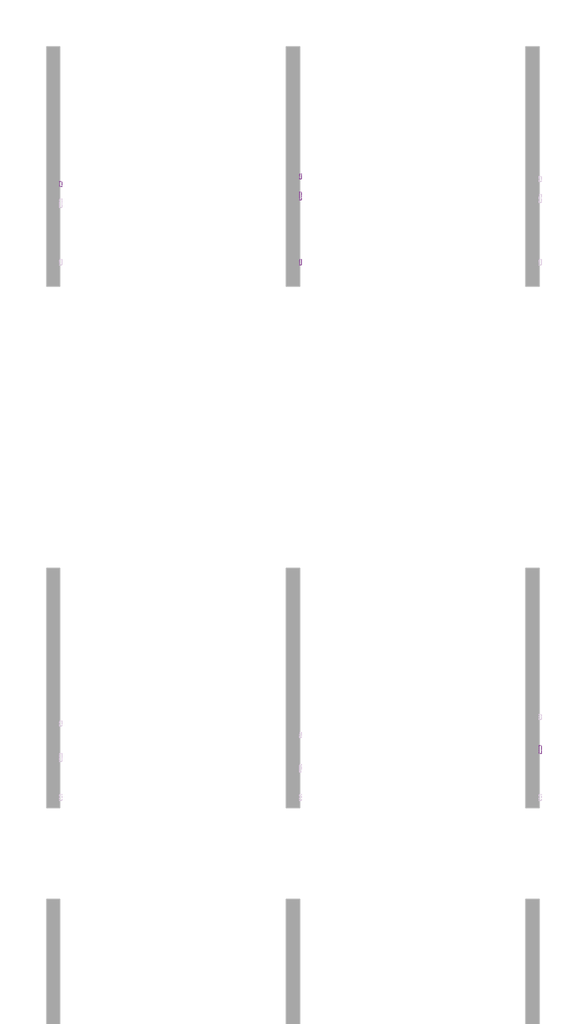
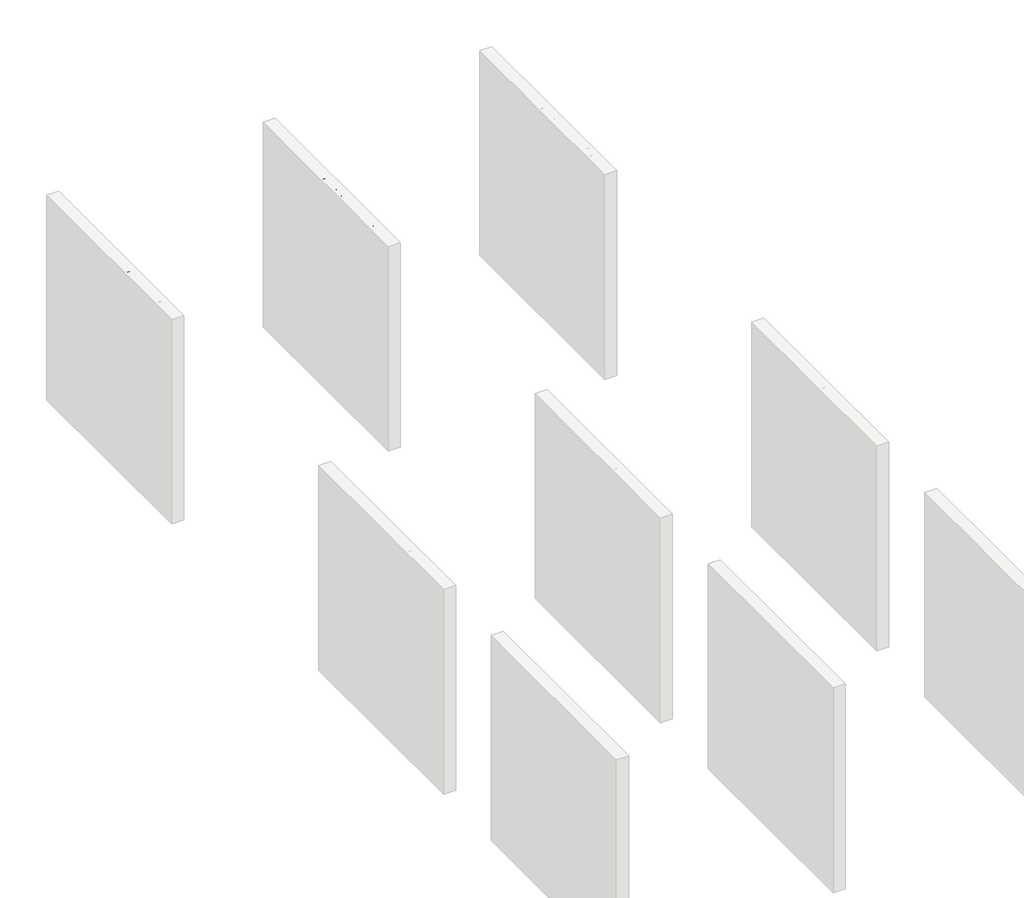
# One storey, part 10 of 17: 5 proxies.
"""IFC4 building model written with IfcOpenShell, lengths in millimetres."""

import ifcopenshell
import ifcopenshell.guid

model = None  # the IFC model being written
_history = None  # IfcOwnerHistory: only IFC2X3 demands one
_inside = {}  # id of a spatial element -> (the spatial element, [elements in it])
_under = {}  # id of a project, library or spatial element -> (it, [spatial elements below it])
_declared = {}  # id of a project -> (the project, [libraries it declares])
_typed = {}  # id of a type object -> (the type object, [elements of that type])
_made_of = {}  # id of a material, layer set ... -> (it, [elements and type objects made of it])


def new_model(schema):
    """Start an empty IFC model of exactly this schema.

    Asked for "IFC4X3", IfcOpenShell would pick the latest addendum, in which some entities
    have other attributes; the version numbers below select the first issue.
    IFC2X3 requires an IfcOwnerHistory on every rooted entity: one is made here for all.
    """
    global model, _history
    if schema == "IFC4X3":
        model = ifcopenshell.file(schema_version=(4, 3, 0, 0))
    else:
        model = ifcopenshell.file(schema=schema)
    _inside.clear()
    _under.clear()
    _declared.clear()
    _typed.clear()
    _made_of.clear()
    _history = None
    if model.schema == "IFC2X3":
        org = make("IfcOrganization", Name="unknown")
        user = make(
            "IfcPersonAndOrganization",
            ThePerson=make("IfcPerson", FamilyName="unknown"),
            TheOrganization=org,
        )
        app = make(
            "IfcApplication",
            ApplicationDeveloper=org,
            Version="unknown",
            ApplicationFullName="unknown",
            ApplicationIdentifier="unknown",
        )
        _history = make(
            "IfcOwnerHistory",
            OwningUser=user,
            OwningApplication=app,
            ChangeAction="ADDED",
            CreationDate=0,
        )
    return model


def make(cls, **values):
    """One entity of the class cls with the attributes given. An attribute that is None is left unset."""
    return model.create_entity(
        cls, **{name: value for name, value in values.items() if value is not None}
    )


def rooted(cls, **values):
    """An entity with a GlobalId (a new one), such as an element, a storey or a relation."""
    return make(cls, GlobalId=ifcopenshell.guid.new(), OwnerHistory=_history, **values)


def si_unit(unit_type, name, prefix=None):
    """IfcSIUnit, for example si_unit("LENGTHUNIT", "METRE", prefix="MILLI")."""
    return make("IfcSIUnit", UnitType=unit_type, Prefix=prefix, Name=name)


def assignment(units):
    """IfcUnitAssignment: the units of a project."""
    return None if units is None else make("IfcUnitAssignment", Units=units)


def point(xyz):
    """IfcCartesianPoint."""
    return None if xyz is None else make("IfcCartesianPoint", Coordinates=xyz)


def direction(xyz):
    """IfcDirection."""
    return None if xyz is None else make("IfcDirection", DirectionRatios=xyz)


def frame(location, z_axis=None, x_axis=None):
    """IfcAxis2Placement3D, a coordinate frame: its origin and axes. An axis left out is left unset."""
    return make(
        "IfcAxis2Placement3D",
        Location=point(location),
        Axis=direction(z_axis),
        RefDirection=direction(x_axis),
    )


def origin():
    """The frame at (0, 0, 0) with its axes left unset."""
    return frame((0.0, 0.0, 0.0))


def place(relative_to, where):
    """IfcLocalPlacement: puts the frame where relative to a parent placement (None: the world)."""
    return make(
        "IfcLocalPlacement", PlacementRelTo=relative_to, RelativePlacement=where
    )


def context(
    kind, dimensions, precision=None, world=None, true_north=None, identifier=None
):
    """IfcGeometricRepresentationContext, for example the 3D "Model" context."""
    return make(
        "IfcGeometricRepresentationContext",
        ContextIdentifier=identifier,
        ContextType=kind,
        CoordinateSpaceDimension=dimensions,
        Precision=precision,
        WorldCoordinateSystem=world,
        TrueNorth=true_north,
    )


def project(units=None, contexts=None):
    """IfcProject with its units and contexts."""
    return rooted(
        "IfcProject",
        Name="project",
        RepresentationContexts=contexts,
        UnitsInContext=assignment(units),
    )


def spatial(cls, under=None, at=None, **own):
    """A site, building, storey or space (cls), placed at a placement, below another one or the project."""
    s = rooted(cls, ObjectPlacement=at, **own)
    if under is not None:
        _under.setdefault(under.id(), (under, []))[1].append(s)
    return s


def polyline(points):
    """IfcPolyline through the points."""
    return make("IfcPolyline", Points=[point(p) for p in points])


def outline(outer, holes=None, kind="AREA"):
    """IfcArbitraryClosedProfileDef: a profile drawn as a closed curve; with holes, ...WithVoids."""
    if holes is None:
        return make("IfcArbitraryClosedProfileDef", ProfileType=kind, OuterCurve=outer)
    return make(
        "IfcArbitraryProfileDefWithVoids",
        ProfileType=kind,
        OuterCurve=outer,
        InnerCurves=holes,
    )


def extrude(swept, where, along, depth):
    """IfcExtrudedAreaSolid: the profile swept, set in the frame where, extruded along a direction by depth."""
    return make(
        "IfcExtrudedAreaSolid",
        SweptArea=swept,
        Position=where,
        ExtrudedDirection=direction(along),
        Depth=depth,
    )


def shape(context_of_items, identifier, shape_type, items):
    """IfcShapeRepresentation: the items that make up one representation, for example the "Body"."""
    return make(
        "IfcShapeRepresentation",
        ContextOfItems=context_of_items,
        RepresentationIdentifier=identifier,
        RepresentationType=shape_type,
        Items=items,
    )


def made_of(thing, what):
    """Note that an element or type object is made of a material, layer set ...; save() writes the relation."""
    if what is not None:
        _made_of.setdefault(what.id(), (what, []))[1].append(thing)
    return thing


def element(
    cls,
    number,
    at=None,
    inside=None,
    cuts=None,
    type_object=None,
    material=None,
    context=None,
    identifier="Body",
    shape_type=None,
    held_by="IfcProductDefinitionShape",
    body=None,
    shapes=None,
    **own,
):
    """One element of the class cls, such as IfcWall. Its Tag is "e" and its number.

    at: its placement. inside: the storey or other place that contains it. cuts: it is an
    opening in that element (IfcRelVoidsElement). A single representation is given by context,
    identifier, shape_type and body (its items); several are given by shapes. held_by: the class
    of the entity that holds the representations. save() writes the other relations.
    """
    e = rooted(cls, Tag="e%d" % number, ObjectPlacement=at, **own)
    if body is not None:
        shapes = [shape(context, identifier, shape_type, body)]
    if shapes is not None:
        e.Representation = make(held_by, Representations=shapes)
    if inside is not None:
        _inside.setdefault(inside.id(), (inside, []))[1].append(e)
    if cuts is not None:
        rooted(
            "IfcRelVoidsElement", RelatingBuildingElement=cuts, RelatedOpeningElement=e
        )
    if type_object is not None:
        _typed.setdefault(type_object.id(), (type_object, []))[1].append(e)
    return made_of(e, material)


def aggregate(whole, parts):
    """IfcRelAggregates: a whole, such as a stair, and the parts it consists of."""
    return rooted("IfcRelAggregates", RelatingObject=whole, RelatedObjects=parts)


def save(model, path):
    """Write the relations noted so far, then the file.

    IfcRelAggregates (storeys below a building ...), IfcRelContainedInSpatialStructure (elements
    in a storey), IfcRelDefinesByType, IfcRelAssociatesMaterial and IfcRelDeclares: one each for
    every whole, place, type object, material and project.
    """
    for whole, parts in _under.values():
        aggregate(whole, parts)
    for where, things in _inside.values():
        rooted(
            "IfcRelContainedInSpatialStructure",
            RelatedElements=things,
            RelatingStructure=where,
        )
    for kind, things in _typed.values():
        rooted("IfcRelDefinesByType", RelatedObjects=things, RelatingType=kind)
    for what, things in _made_of.values():
        rooted("IfcRelAssociatesMaterial", RelatedObjects=things, RelatingMaterial=what)
    for by, libraries in _declared.values():
        rooted("IfcRelDeclares", RelatingContext=by, RelatedDefinitions=libraries)
    model.write(path)


model = new_model("IFC4")

# Units and contexts
model_context = context("Model", 3, world=origin())
ifc_project = project(units=[si_unit("LENGTHUNIT", "METRE", prefix="MILLI")], contexts=[model_context])

# Site, building, storey
site = spatial("IfcSite", under=ifc_project)
building = spatial("IfcBuilding", under=site)
storey = spatial("IfcBuildingStorey", under=building, Name="PORTOBELLO - SHOWROOM", Elevation=0.0)

# Proxies
placement = place(None, origin())
element("IfcBuildingElementProxy", 1, Name="10mm Arial", ObjectType="10mm Arial", at=placement, inside=storey, context=model_context, shape_type="SweptSolid", body=[
    extrude(outline(polyline([(5678.3988105, 2518.4745677), (5718.497948, 2618.9308778), (5729.1910513, 2618.9308778), (5769.2656633, 2518.4745677), (5755.997386, 2518.4745677), (5744.5194678, 2549.8671646), (5703.1204806, 2549.8671646), (5691.6425623, 2518.4745677), (5678.3988105, 2518.4745677)]), holes=[polyline([(5707.7312683, 2562.4242034), (5739.9332056, 2562.4242034), (5730.858783, 2587.121348), (5723.8199742, 2606.373839), (5717.5659803, 2589.279589), (5707.7312683, 2562.4242034)])]), frame((-10322.2794626, 0.0, 0.0), z_axis=(1.0, 0.0, 0.0), x_axis=(0.0, 1.0, 0.0)), (0.0, 0.0, 1.0), 20.0),
    extrude(outline(polyline([(-10302.2794626, 5793.6685023), (-10302.2794626, 5781.1114636), (-10322.2794626, 5781.1114636), (-10322.2794626, 5793.6685023), (-10302.2794626, 5793.6685023)])), frame((0.0, 0.0, 2518.4745677), z_axis=(0.0, 0.0, 1.0), x_axis=(1.0, 0.0, 0.0)), (0.0, 0.0, 1.0), 100.4563101),
    extrude(outline(polyline([(5812.5040605, 2518.4745677), (5812.5040605, 2592.2471704), (5825.0610992, 2592.2471704), (5825.0610992, 2580.1070646), (5833.6940634, 2590.0521412), (5845.981322, 2593.8168003), (5858.5628863, 2589.9785648), (5865.4790678, 2579.2241478), (5875.2769916, 2590.1686372), (5887.6500894, 2593.8168003), (5897.0893282, 2592.299287), (5904.0698891, 2587.7467474), (5908.3833055, 2580.0365539), (5909.8211109, 2569.0460793), (5909.8211109, 2518.4745677), (5897.2640722, 2518.4745677), (5897.2640722, 2563.6504767), (5896.0991125, 2574.1351135), (5891.8807323, 2579.2977242), (5884.7070334, 2581.2597615), (5872.3584611, 2576.2320409), (5868.6704441, 2569.6898728), (5867.4411051, 2560.1188095), (5867.4411051, 2518.4745677), (5854.8840663, 2518.4745677), (5854.8840663, 2565.0484283), (5851.9777986, 2577.2130596), (5842.4496549, 2581.2597615), (5833.1545031, 2578.5619602), (5826.9740856, 2570.66476), (5825.0610992, 2555.6797001), (5825.0610992, 2518.4745677), (5812.5040605, 2518.4745677)])), frame((-10322.2794626, 0.0, 0.0), z_axis=(1.0, 0.0, 0.0), x_axis=(0.0, 1.0, 0.0)), (0.0, 0.0, 1.0), 20.0),
    extrude(outline(polyline([(5925.5174094, 2555.360869), (5928.2336048, 2573.1479635), (5936.382191, 2585.64982), (5946.4498949, 2591.7750552), (5958.5041616, 2593.8168003), (5971.6957968, 2591.3305311), (5982.2325503, 2583.8717237), (5989.1395348, 2572.0289891), (5991.4418629, 2556.3909386), (5987.3706355, 2534.0482388), (5975.5125725, 2521.4053609), (5958.5041616, 2516.9049378), (5945.1531109, 2519.3820099), (5934.6286201, 2526.8132262), (5927.7952121, 2538.9042811), (5925.5174094, 2555.360869)]), holes=[polyline([(5938.0744482, 2555.3853945), (5939.527582, 2544.0209065), (5943.8869837, 2535.924437), (5950.4475459, 2531.0775917), (5958.5041616, 2529.4619766), (5966.5239891, 2531.0867887), (5973.0722886, 2535.9612252), (5977.4316903, 2544.1649937), (5978.8848242, 2555.777802), (5977.4224932, 2566.8111961), (5973.0355004, 2574.7973011), (5966.4780039, 2579.6441464), (5958.5041616, 2581.2597615), (5950.4475459, 2579.6502778), (5943.8869837, 2574.8218266), (5939.527582, 2566.7437511), (5938.0744482, 2555.3853945)])]), frame((-10322.2794626, 0.0, 0.0), z_axis=(1.0, 0.0, 0.0), x_axis=(0.0, 1.0, 0.0)), (0.0, 0.0, 1.0), 20.0),
    extrude(outline(polyline([(6005.5685315, 2518.4745677), (6005.5685315, 2592.2471704), (6018.1255703, 2592.2471704), (6018.1255703, 2581.9464746), (6027.7272904, 2590.8492188), (6040.8361522, 2593.8168003), (6052.6942151, 2591.4255673), (6060.787619, 2585.1470479), (6064.5522781, 2575.9132098), (6065.2144657, 2563.773104), (6065.2144657, 2518.4745677), (6052.6574269, 2518.4745677), (6052.6574269, 2562.0808468), (6051.2104244, 2573.1908831), (6046.0968647, 2579.0647323), (6037.4761633, 2581.2597615), (6023.8522667, 2576.3301428), (6019.5572444, 2569.1871007), (6018.1255703, 2557.6172119), (6018.1255703, 2518.4745677), (6005.5685315, 2518.4745677)])), frame((-10322.2794626, 0.0, 0.0), z_axis=(1.0, 0.0, 0.0), x_axis=(0.0, 1.0, 0.0)), (0.0, 0.0, 1.0), 20.0),
    extrude(outline(polyline([(6127.9996595, 2518.4745677), (6127.9996595, 2530.3203679), (6119.6916578, 2520.2587953), (6108.2076082, 2516.9049378), (6092.6584625, 2521.7609802), (6081.6710536, 2535.3113003), (6077.7715045, 2555.2872926), (6081.3644853, 2575.2755477), (6092.131165, 2589.0343343), (6108.1585573, 2593.8168003), (6119.7345774, 2590.3954977), (6127.9996595, 2581.5050162), (6127.9996595, 2618.9308778), (6140.5566983, 2618.9308778), (6140.5566983, 2518.4745677), (6127.9996595, 2518.4745677)]), holes=[polyline([(6090.3285432, 2555.3363436), (6091.7448889, 2543.977987), (6095.993926, 2535.8999115), (6102.1682121, 2531.0714603), (6109.3603051, 2529.4619766), (6116.5493324, 2530.9978839), (6122.5672687, 2535.6056059), (6126.6415618, 2543.3709817), (6127.9996595, 2554.3798504), (6126.6170364, 2566.415723), (6122.4691669, 2574.7605129), (6116.2979464, 2579.6349494), (6108.8452703, 2581.2597615), (6101.5796009, 2579.6993287), (6095.626044, 2575.0180303), (6091.6529184, 2566.976743), (6090.3285432, 2555.3363436)])]), frame((-10322.2794626, 0.0, 0.0), z_axis=(1.0, 0.0, 0.0), x_axis=(0.0, 1.0, 0.0)), (0.0, 0.0, 1.0), 20.0),
    extrude(outline(polyline([(6195.4937429, 2553.0064243), (6208.0507817, 2553.0064243), (6212.0974836, 2540.4371228), (6221.9812466, 2532.4908717), (6237.0398829, 2529.4619766), (6250.1610074, 2531.7551077), (6258.634556, 2538.0581525), (6261.4181965, 2546.4826502), (6259.3335318, 2554.3185367), (6250.7986695, 2560.0207077), (6232.5149344, 2564.8154363), (6212.8332476, 2571.0081166), (6202.152407, 2580.3523193), (6198.6330026, 2592.8357816), (6202.9862729, 2607.0482894), (6215.7027272, 2617.0792051), (6234.3175561, 2620.5005077), (6254.1831839, 2616.9197896), (6267.4269357, 2606.3983645), (6272.4056054, 2590.6775406), (6259.8485666, 2590.6775406), (6257.5431728, 2598.1700706), (6252.7361814, 2603.5779359), (6234.8080655, 2607.9434689), (6216.8308986, 2603.6269868), (6211.1900414, 2593.2036636), (6215.1876924, 2584.4971231), (6235.6909823, 2577.4828397), (6257.9110548, 2571.1797948), (6270.0634233, 2561.0017263), (6273.9752352, 2546.8014813), (6269.4748122, 2531.7796332), (6256.5253659, 2520.8167497), (6237.5303922, 2516.9049378), (6215.1018533, 2521.123318), (6200.913871, 2533.8275096), (6195.4937429, 2553.0064243)])), frame((-10322.2794626, 0.0, 0.0), z_axis=(1.0, 0.0, 0.0), x_axis=(0.0, 1.0, 0.0)), (0.0, 0.0, 1.0), 20.0),
    extrude(outline(polyline([(6338.3300589, 2518.4745677), (6338.3300589, 2531.1542338), (6328.4953469, 2520.4672618), (6315.668528, 2516.9049378), (6303.859516, 2519.4065354), (6295.7170611, 2525.6850548), (6291.9769275, 2534.9311556), (6291.2411635, 2546.6052776), (6291.2411635, 2592.2471704), (6303.7982023, 2592.2471704), (6303.7982023, 2552.515915), (6304.5584918, 2539.7136215), (6309.5248987, 2532.1965661), (6318.8813641, 2529.4619766), (6329.366001, 2532.2578797), (6336.2944452, 2539.873037), (6338.3300589, 2553.8648156), (6338.3300589, 2592.2471704), (6350.8870977, 2592.2471704), (6350.8870977, 2518.4745677), (6338.3300589, 2518.4745677)])), frame((-10322.2794626, 0.0, 0.0), z_axis=(1.0, 0.0, 0.0), x_axis=(0.0, 1.0, 0.0)), (0.0, 0.0, 1.0), 20.0),
    extrude(outline(polyline([(6368.153026, 2490.2212304), (6368.153026, 2592.2471704), (6380.7100648, 2592.2471704), (6380.7100648, 2579.9353863), (6389.3920798, 2590.3464468), (6401.1152528, 2593.8168003), (6417.0322804, 2588.9607579), (6427.4310781, 2575.2755477), (6430.9382198, 2555.9249548), (6426.977357, 2535.5810804), (6415.4749133, 2521.724192), (6399.5946738, 2516.9049378), (6388.6685786, 2520.1300366), (6380.7100648, 2528.2847542), (6380.7100648, 2490.2212304), (6368.153026, 2490.2212304)]), holes=[polyline([(6380.7100648, 2554.7722579), (6382.0681625, 2543.5150688), (6386.1424556, 2535.6423941), (6392.1542605, 2531.007081), (6399.3248937, 2529.4619766), (6406.6120229, 2531.0622633), (6412.777112, 2535.8631233), (6416.9801638, 2544.0239722), (6418.3811811, 2555.7042256), (6417.0138863, 2566.900101), (6412.9120021, 2574.8831403), (6406.9093942, 2579.6656062), (6399.8399285, 2581.2597615), (6392.7428717, 2579.5644386), (6386.5103376, 2574.4784701), (6382.160133, 2566.1612713), (6380.7100648, 2554.7722579)])]), frame((-10322.2794626, 0.0, 0.0), z_axis=(1.0, 0.0, 0.0), x_axis=(0.0, 1.0, 0.0)), (0.0, 0.0, 1.0), 20.0),
    extrude(outline(polyline([(6445.0648885, 2518.4745677), (6445.0648885, 2592.2471704), (6456.0522974, 2592.2471704), (6456.0522974, 2581.3333379), (6463.8513957, 2591.3887791), (6471.6995449, 2593.8168003), (6484.3056346, 2589.9417766), (6480.1117799, 2578.6845875), (6471.282612, 2581.2597615), (6464.1824895, 2578.7826894), (6459.6575409, 2571.9155588), (6457.6219272, 2557.24933), (6457.6219272, 2518.4745677), (6445.0648885, 2518.4745677)])), frame((-10322.2794626, 0.0, 0.0), z_axis=(1.0, 0.0, 0.0), x_axis=(0.0, 1.0, 0.0)), (0.0, 0.0, 1.0), 20.0),
    extrude(outline(polyline([(6543.804416, 2540.4493855), (6556.1162001, 2538.8797557), (6551.6801563, 2529.602998), (6544.6014936, 2522.6684224), (6535.0396274, 2518.345809), (6523.1539733, 2516.9049378), (6508.4202994, 2519.391207), (6497.0834026, 2526.8500144), (6489.8545214, 2538.7969822), (6487.4448943, 2554.7477324), (6489.8790468, 2571.2349771), (6497.1815044, 2583.5651553), (6508.3651171, 2591.253889), (6522.4427348, 2593.8168003), (6536.0819597, 2591.2600204), (6546.9804638, 2583.5896808), (6554.1265716, 2571.2840281), (6556.5086075, 2554.8213088), (6556.4350311, 2551.4367944), (6500.0019331, 2551.4367944), (6502.1755025, 2542.0374095), (6507.2246829, 2535.1273593), (6514.5118121, 2530.8783223), (6523.399228, 2529.4619766), (6535.7110121, 2532.0862015), (6543.804416, 2540.4493855)]), holes=[polyline([(6500.0019331, 2563.9938332), (6543.9515688, 2563.9938332), (6538.9238482, 2575.3736496), (6531.6029965, 2579.7882335), (6522.3936838, 2581.2597615), (6506.9303773, 2576.5631347), (6502.0651379, 2571.0724959), (6500.0019331, 2563.9938332)])]), frame((-10322.2794626, 0.0, 0.0), z_axis=(1.0, 0.0, 0.0), x_axis=(0.0, 1.0, 0.0)), (0.0, 0.0, 1.0), 20.0),
    extrude(outline(polyline([(6569.0656463, 2518.4745677), (6569.0656463, 2592.2471704), (6581.6226851, 2592.2471704), (6581.6226851, 2580.1070646), (6590.2556492, 2590.0521412), (6602.5429079, 2593.8168003), (6615.1244721, 2589.9785648), (6622.0406536, 2579.2241478), (6631.8385774, 2590.1686372), (6644.2116752, 2593.8168003), (6653.650914, 2592.299287), (6660.6314749, 2587.7467474), (6664.9448913, 2580.0365539), (6666.3826968, 2569.0460793), (6666.3826968, 2518.4745677), (6653.825658, 2518.4745677), (6653.825658, 2563.6504767), (6652.6606983, 2574.1351135), (6648.4423181, 2579.2977242), (6641.2686192, 2581.2597615), (6628.9200469, 2576.2320409), (6625.2320299, 2569.6898728), (6624.0026909, 2560.1188095), (6624.0026909, 2518.4745677), (6611.4456521, 2518.4745677), (6611.4456521, 2565.0484283), (6608.5393844, 2577.2130596), (6599.0112407, 2581.2597615), (6589.716089, 2578.5619602), (6583.5356714, 2570.66476), (6581.6226851, 2555.6797001), (6581.6226851, 2518.4745677), (6569.0656463, 2518.4745677)])), frame((-10322.2794626, 0.0, 0.0), z_axis=(1.0, 0.0, 0.0), x_axis=(0.0, 1.0, 0.0)), (0.0, 0.0, 1.0), 20.0),
    extrude(outline(polyline([(6736.868887, 2540.4493855), (6749.1806711, 2538.8797557), (6744.7446274, 2529.602998), (6737.6659647, 2522.6684224), (6728.1040985, 2518.345809), (6716.2184444, 2516.9049378), (6701.4847705, 2519.391207), (6690.1478736, 2526.8500144), (6682.9189924, 2538.7969822), (6680.5093654, 2554.7477324), (6682.9435179, 2571.2349771), (6690.2459755, 2583.5651553), (6701.4295882, 2591.253889), (6715.5072058, 2593.8168003), (6729.1464308, 2591.2600204), (6740.0449349, 2583.5896808), (6747.1910427, 2571.2840281), (6749.5730786, 2554.8213088), (6749.4995022, 2551.4367944), (6693.0664041, 2551.4367944), (6695.2399736, 2542.0374095), (6700.289154, 2535.1273593), (6707.5762832, 2530.8783223), (6716.463699, 2529.4619766), (6728.7754831, 2532.0862015), (6736.868887, 2540.4493855)]), holes=[polyline([(6693.0664041, 2563.9938332), (6737.0160398, 2563.9938332), (6731.9883192, 2575.3736496), (6724.6674675, 2579.7882335), (6715.4581549, 2581.2597615), (6699.9948484, 2576.5631347), (6695.129609, 2571.0724959), (6693.0664041, 2563.9938332)])]), frame((-10322.2794626, 0.0, 0.0), z_axis=(1.0, 0.0, 0.0), x_axis=(0.0, 1.0, 0.0)), (0.0, 0.0, 1.0), 20.0),
])
element("IfcBuildingElementProxy", 2, Name="10mm Arial", ObjectType="10mm Arial", at=placement, inside=storey, context=model_context, shape_type="SweptSolid", body=[
    extrude(outline(polyline([(5732.4529383, 2393.4745677), (5719.8958996, 2393.4745677), (5719.8958996, 2471.7598562), (5708.0010484, 2463.2863076), (5694.781822, 2456.9464746), (5694.781822, 2468.8168003), (5713.1881845, 2480.5644987), (5724.3595344, 2493.9308778), (5732.4529383, 2493.9308778), (5732.4529383, 2393.4745677)])), frame((-10322.2794626, 0.0, 0.0), z_axis=(1.0, 0.0, 0.0), x_axis=(0.0, 1.0, 0.0)), (0.0, 0.0, 1.0), 20.0),
    extrude(outline(polyline([(5762.2759054, 2442.8933823), (5765.9669881, 2471.7966444), (5776.9298715, 2488.4616988), (5795.2381322, 2493.9308778), (5809.904361, 2490.6935163), (5820.0333786, 2481.3615763), (5825.9194906, 2466.4991437), (5828.2003589, 2442.8933823), (5824.5460645, 2414.1127476), (5813.6199692, 2397.410905), (5805.3886096, 2393.2814296), (5795.2381322, 2391.9049378), (5782.1905841, 2394.2961708), (5772.2822957, 2401.4698697), (5764.777503, 2418.4598865), (5762.2759054, 2442.8933823)]), holes=[polyline([(5774.8329442, 2442.9179078), (5776.3044722, 2423.1657104), (5780.7190561, 2411.7337774), (5787.2918811, 2406.2799268), (5795.2381322, 2404.4619766), (5803.1843833, 2406.2860581), (5809.7572082, 2411.7583028), (5814.1717922, 2423.1963672), (5815.6433202, 2442.9179078), (5814.2208431, 2462.2255812), (5809.953412, 2473.746419), (5803.3928497, 2479.466984), (5795.0909794, 2481.373839), (5787.2305674, 2479.6938446), (5780.9152598, 2474.6538613), (5776.3535231, 2462.4156536), (5774.8329442, 2442.9179078)])]), frame((-10322.2794626, 0.0, 0.0), z_axis=(1.0, 0.0, 0.0), x_axis=(0.0, 1.0, 0.0)), (0.0, 0.0, 1.0), 20.0),
    extrude(outline(polyline([(5834.4788783, 2393.4745677), (5861.3097385, 2430.5815982), (5836.0485082, 2467.2471704), (5851.1071445, 2467.2471704), (5863.2963013, 2449.5643092), (5869.0107349, 2441.2501761), (5873.9648791, 2448.0682557), (5887.8462931, 2467.2471704), (5902.9539804, 2467.2471704), (5876.4174258, 2430.5570728), (5901.9729617, 2393.4745677), (5886.8897999, 2393.4745677), (5871.487807, 2415.792742), (5868.6919039, 2419.8884949), (5849.5865656, 2393.4745677), (5834.4788783, 2393.4745677)])), frame((-10322.2794626, 0.0, 0.0), z_axis=(1.0, 0.0, 0.0), x_axis=(0.0, 1.0, 0.0)), (0.0, 0.0, 1.0), 20.0),
    extrude(outline(polyline([(5974.1759346, 2406.0316064), (5974.1759346, 2393.4745677), (5908.2514811, 2393.4745677), (5909.6003817, 2402.1320573), (5917.2400645, 2415.4616482), (5932.9731512, 2430.0175125), (5954.6414007, 2450.9377353), (5960.049266, 2465.1625058), (5954.9357063, 2476.6772122), (5941.5815899, 2481.373839), (5927.6633877, 2476.7875768), (5922.3781497, 2464.1079107), (5909.8211109, 2465.6775406), (5912.8653344, 2477.8237778), (5919.4473565, 2486.6958652), (5929.2238205, 2492.1221247), (5941.85137, 2493.9308778), (5954.57089, 2491.9197896), (5964.3289599, 2485.8865249), (5970.5369686, 2476.873416), (5972.6063048, 2465.9227952), (5970.3744873, 2454.0156813), (5962.9555338, 2441.7038972), (5944.9661042, 2424.4992826), (5930.5206045, 2412.4204904), (5924.8552218, 2406.0316064), (5974.1759346, 2406.0316064)])), frame((-10322.2794626, 0.0, 0.0), z_axis=(1.0, 0.0, 0.0), x_axis=(0.0, 1.0, 0.0)), (0.0, 0.0, 1.0), 20.0),
    extrude(outline(polyline([(5986.7329734, 2442.8933823), (5990.4240561, 2471.7966444), (6001.3869395, 2488.4616988), (6019.6952002, 2493.9308778), (6034.361429, 2490.6935163), (6044.4904466, 2481.3615763), (6050.3765586, 2466.4991437), (6052.6574269, 2442.8933823), (6049.0031324, 2414.1127476), (6038.0770372, 2397.410905), (6029.8456775, 2393.2814296), (6019.6952002, 2391.9049378), (6006.6476521, 2394.2961708), (5996.7393637, 2401.4698697), (5989.234571, 2418.4598865), (5986.7329734, 2442.8933823)]), holes=[polyline([(5999.2900122, 2442.9179078), (6000.7615401, 2423.1657104), (6005.1761241, 2411.7337774), (6011.7489491, 2406.2799268), (6019.6952002, 2404.4619766), (6027.6414513, 2406.2860581), (6034.2142762, 2411.7583028), (6038.6288602, 2423.1963672), (6040.1003882, 2442.9179078), (6038.6779111, 2462.2255812), (6034.41048, 2473.746419), (6027.8499177, 2479.466984), (6019.5480474, 2481.373839), (6011.6876354, 2479.6938446), (6005.3723278, 2474.6538613), (6000.8105911, 2462.4156536), (5999.2900122, 2442.9179078)])]), frame((-10322.2794626, 0.0, 0.0), z_axis=(1.0, 0.0, 0.0), x_axis=(0.0, 1.0, 0.0)), (0.0, 0.0, 1.0), 20.0),
])
element("IfcBuildingElementProxy", 3, Name="10mm Arial", ObjectType="10mm Arial", at=placement, inside=storey, context=model_context, shape_type="SweptSolid", body=[
    extrude(outline(polyline([(-184.9270675, 2518.4745677), (-184.9270675, 2618.9308778), (-163.3937081, 2618.9308778), (-142.7923163, 2548.1258565), (-138.6229871, 2533.3370003), (-134.1348267, 2549.3521298), (-113.9258424, 2618.9308778), (-92.3189066, 2618.9308778), (-92.3189066, 2518.4745677), (-104.8759454, 2518.4745677), (-104.8759454, 2606.373839), (-130.1126502, 2518.4745677), (-147.1087984, 2518.4745677), (-172.3700287, 2606.373839), (-172.3700287, 2518.4745677), (-184.9270675, 2518.4745677)])), frame((-7622.2794626, 0.0, 0.0), z_axis=(1.0, 0.0, 0.0), x_axis=(0.0, 1.0, 0.0)), (0.0, 0.0, 1.0), 20.0),
    extrude(outline(polyline([(-75.0529783, 2555.360869), (-72.3367829, 2573.1479635), (-64.1881967, 2585.64982), (-54.1204928, 2591.7750552), (-42.0662261, 2593.8168003), (-28.8745908, 2591.3305311), (-18.3378374, 2583.8717237), (-11.4308529, 2572.0289891), (-9.1285248, 2556.3909386), (-13.1997522, 2534.0482388), (-25.0578151, 2521.4053609), (-42.0662261, 2516.9049378), (-55.4172768, 2519.3820099), (-65.9417675, 2526.8132262), (-72.7751756, 2538.9042811), (-75.0529783, 2555.360869)]), holes=[polyline([(-62.4959395, 2555.3853945), (-61.0428056, 2544.0209065), (-56.683404, 2535.924437), (-50.1228418, 2531.0775917), (-42.0662261, 2529.4619766), (-34.0463986, 2531.0867887), (-27.498099, 2535.9612252), (-23.1386974, 2544.1649937), (-21.6855635, 2555.777802), (-23.1478945, 2566.8111961), (-27.5348872, 2574.7973011), (-34.0923838, 2579.6441464), (-42.0662261, 2581.2597615), (-50.1228418, 2579.6502778), (-56.683404, 2574.8218266), (-61.0428056, 2566.7437511), (-62.4959395, 2555.3853945)])]), frame((-7622.2794626, 0.0, 0.0), z_axis=(1.0, 0.0, 0.0), x_axis=(0.0, 1.0, 0.0)), (0.0, 0.0, 1.0), 20.0),
    extrude(outline(polyline([(52.0870392, 2518.4745677), (52.0870392, 2531.1542338), (42.2523272, 2520.4672618), (29.4255083, 2516.9049378), (17.6164963, 2519.4065354), (9.4740415, 2525.6850548), (5.7339079, 2534.9311556), (4.9981439, 2546.6052776), (4.9981439, 2592.2471704), (17.5551826, 2592.2471704), (17.5551826, 2552.515915), (18.3154721, 2539.7136215), (23.281879, 2532.1965661), (32.6383444, 2529.4619766), (43.1229813, 2532.2578797), (50.0514255, 2539.873037), (52.0870392, 2553.8648156), (52.0870392, 2592.2471704), (64.644078, 2592.2471704), (64.644078, 2518.4745677), (52.0870392, 2518.4745677)])), frame((-7622.2794626, 0.0, 0.0), z_axis=(1.0, 0.0, 0.0), x_axis=(0.0, 1.0, 0.0)), (0.0, 0.0, 1.0), 20.0),
    extrude(outline(polyline([(77.2011168, 2540.4493855), (89.7581555, 2542.0190154), (95.5706911, 2532.6993381), (108.8880193, 2529.4619766), (121.6903127, 2532.429558), (125.859642, 2539.3947905), (121.6657873, 2545.0356477), (108.7408665, 2548.6163658), (89.8317319, 2554.7599951), (81.5789125, 2561.933694), (78.7707466, 2572.0627116), (81.0270895, 2581.419177), (87.1829816, 2588.5683505), (95.1660209, 2592.2839586), (105.9694888, 2593.8168003), (121.2488543, 2591.3519909), (130.960939, 2584.6810641), (135.2774211, 2573.4116123), (122.7203823, 2571.8419824), (117.99923, 2578.7704267), (106.9505075, 2581.2597615), (94.9330289, 2578.8807913), (91.3277854, 2573.3380359), (92.8238388, 2569.6837414), (97.5082029, 2566.9123637), (108.3239336, 2564.2390879), (126.7548215, 2558.3284505), (135.3142093, 2551.6329982), (138.4166808, 2540.7191656), (134.774649, 2528.7016871), (124.2654867, 2519.9828838), (108.716341, 2516.9049378), (96.055069, 2518.3887285), (86.8150996, 2522.8401007), (80.6469448, 2530.2100033), (77.2011168, 2540.4493855)])), frame((-7622.2794626, 0.0, 0.0), z_axis=(1.0, 0.0, 0.0), x_axis=(0.0, 1.0, 0.0)), (0.0, 0.0, 1.0), 20.0),
    extrude(outline(polyline([(147.8344599, 2540.4493855), (160.3914986, 2542.0190154), (166.2040341, 2532.6993381), (179.5213624, 2529.4619766), (192.3236558, 2532.429558), (196.4929851, 2539.3947905), (192.2991303, 2545.0356477), (179.3742096, 2548.6163658), (160.465075, 2554.7599951), (152.2122556, 2561.933694), (149.4040897, 2572.0627116), (151.6604326, 2581.419177), (157.8163247, 2588.5683505), (165.799364, 2592.2839586), (176.6028319, 2593.8168003), (191.8821974, 2591.3519909), (201.5942821, 2584.6810641), (205.9107642, 2573.4116123), (193.3537254, 2571.8419824), (188.6325731, 2578.7704267), (177.5838505, 2581.2597615), (165.566372, 2578.8807913), (161.9611285, 2573.3380359), (163.4571819, 2569.6837414), (168.141546, 2566.9123637), (178.9572766, 2564.2390879), (197.3881646, 2558.3284505), (205.9475524, 2551.6329982), (209.0500239, 2540.7191656), (205.4079921, 2528.7016871), (194.8988298, 2519.9828838), (179.3496841, 2516.9049378), (166.6884121, 2518.3887285), (157.4484427, 2522.8401007), (151.2802879, 2530.2100033), (147.8344599, 2540.4493855)])), frame((-7622.2794626, 0.0, 0.0), z_axis=(1.0, 0.0, 0.0), x_axis=(0.0, 1.0, 0.0)), (0.0, 0.0, 1.0), 20.0),
    extrude(outline(polyline([(274.8273246, 2540.4493855), (287.1391087, 2538.8797557), (282.703065, 2529.602998), (275.6244022, 2522.6684224), (266.0625361, 2518.345809), (254.1768819, 2516.9049378), (239.443208, 2519.391207), (228.1063112, 2526.8500144), (220.87743, 2538.7969822), (218.4678029, 2554.7477324), (220.9019555, 2571.2349771), (228.2044131, 2583.5651553), (239.3880257, 2591.253889), (253.4656434, 2593.8168003), (267.1048684, 2591.2600204), (278.0033725, 2583.5896808), (285.1494802, 2571.2840281), (287.5315162, 2554.8213088), (287.4579398, 2551.4367944), (231.0248417, 2551.4367944), (233.1984112, 2542.0374095), (238.2475915, 2535.1273593), (245.5347207, 2530.8783223), (254.4221366, 2529.4619766), (266.7339207, 2532.0862015), (274.8273246, 2540.4493855)]), holes=[polyline([(231.0248417, 2563.9938332), (274.9744774, 2563.9938332), (269.9467568, 2575.3736496), (262.6259051, 2579.7882335), (253.4165925, 2581.2597615), (237.9532859, 2576.5631347), (233.0880466, 2571.0724959), (231.0248417, 2563.9938332)])]), frame((-7622.2794626, 0.0, 0.0), z_axis=(1.0, 0.0, 0.0), x_axis=(0.0, 1.0, 0.0)), (0.0, 0.0, 1.0), 20.0),
    extrude(outline(polyline([(387.9878263, 2557.7153138), (387.9878263, 2570.2723526), (428.7982023, 2570.2723526), (428.7982023, 2532.7238636), (408.6505317, 2520.8780634), (387.3501642, 2516.9049378), (373.2633494, 2518.4837647), (360.5315667, 2523.2202454), (349.9549594, 2530.948833), (342.3336707, 2541.5039806), (337.7259487, 2554.1652526), (336.1900414, 2568.2122134), (337.7198173, 2582.3603418), (342.3091452, 2595.5213202), (349.7679527, 2606.5608457), (359.9061673, 2614.3446156), (372.2547396, 2618.9615346), (386.3446201, 2620.5005077), (405.9895186, 2616.9320523), (419.760568, 2606.9992384), (427.3511998, 2590.383235), (415.7751797, 2587.121348), (410.0484833, 2598.7341563), (400.2628222, 2605.4296086), (386.1484163, 2607.9434689), (370.0719731, 2605.2334049), (359.1336152, 2598.1210196), (352.6711548, 2588.4457231), (348.7470802, 2568.7272482), (353.4682324, 2546.8382695), (367.2024936, 2533.7416705), (386.3446201, 2529.4619766), (403.5247092, 2532.6870754), (416.2411635, 2539.5664687), (416.2411635, 2557.7153138), (387.9878263, 2557.7153138)])), frame((-7622.2794626, 0.0, 0.0), z_axis=(1.0, 0.0, 0.0), x_axis=(0.0, 1.0, 0.0)), (0.0, 0.0, 1.0), 20.0),
    extrude(outline(polyline([(447.6337605, 2518.4745677), (447.6337605, 2592.2471704), (458.6211694, 2592.2471704), (458.6211694, 2581.3333379), (466.4202677, 2591.3887791), (474.2684169, 2593.8168003), (486.8745066, 2589.9417766), (482.6806519, 2578.6845875), (473.851484, 2581.2597615), (466.7513615, 2578.7826894), (462.2264129, 2571.9155588), (460.1907992, 2557.24933), (460.1907992, 2518.4745677), (447.6337605, 2518.4745677)])), frame((-7622.2794626, 0.0, 0.0), z_axis=(1.0, 0.0, 0.0), x_axis=(0.0, 1.0, 0.0)), (0.0, 0.0, 1.0), 20.0),
    extrude(outline(polyline([(541.8115512, 2527.8923467), (529.6346572, 2519.3820099), (516.1824389, 2516.9049378), (505.688605, 2518.3948599), (497.9477547, 2522.8646261), (493.1744858, 2529.6520489), (491.5833961, 2538.0949407), (493.9868918, 2548.0277546), (500.3021994, 2555.2382417), (509.0945791, 2559.3585201), (519.9593607, 2561.246981), (541.7379748, 2565.563463), (541.8115512, 2568.3593662), (538.3534605, 2577.6299925), (524.4720465, 2581.2597615), (511.7678549, 2578.8440031), (505.7100648, 2570.2723526), (493.153026, 2571.8419824), (498.5854168, 2584.1047156), (509.5237748, 2591.2906772), (526.0907273, 2593.8168003), (541.3087792, 2591.5849828), (549.9049551, 2585.9809138), (553.7554533, 2577.4583142), (554.36859, 2566.4709053), (554.36859, 2550.8481832), (555.0062521, 2529.0327809), (557.5078497, 2518.4745677), (544.9508109, 2518.4745677), (541.8115512, 2527.8923467)]), holes=[polyline([(541.8115512, 2553.0064243), (521.553516, 2549.1559261), (510.7500481, 2547.1203124), (505.8572176, 2543.8093744), (504.1404349, 2538.9778575), (507.8805685, 2532.1843033), (518.8557147, 2529.4619766), (531.5599063, 2532.4663462), (539.751412, 2539.738147), (541.7379748, 2549.4502317), (541.8115512, 2553.0064243)])]), frame((-7622.2794626, 0.0, 0.0), z_axis=(1.0, 0.0, 0.0), x_axis=(0.0, 1.0, 0.0)), (0.0, 0.0, 1.0), 20.0),
    extrude(outline(polyline([(615.584154, 2518.4745677), (615.584154, 2579.6901317), (604.5967451, 2579.6901317), (604.5967451, 2592.2471704), (615.584154, 2592.2471704), (615.584154, 2599.6783867), (616.9085292, 2610.1507609), (623.3342014, 2617.6310281), (635.989342, 2620.5005077), (647.4427348, 2619.1270815), (645.6033248, 2607.3548577), (638.3683122, 2607.9434689), (630.4588493, 2605.8588043), (628.1411928, 2598.0842314), (628.1411928, 2592.2471704), (642.2678614, 2592.2471704), (642.2678614, 2579.6901317), (628.1411928, 2579.6901317), (628.1411928, 2518.4745677), (615.584154, 2518.4745677)])), frame((-7622.2794626, 0.0, 0.0), z_axis=(1.0, 0.0, 0.0), x_axis=(0.0, 1.0, 0.0)), (0.0, 0.0, 1.0), 20.0),
    extrude(outline(polyline([(574.773778, 2518.4745677), (574.773778, 2579.6901317), (563.7863691, 2579.6901317), (563.7863691, 2592.2471704), (574.773778, 2592.2471704), (574.773778, 2599.6783867), (576.0981532, 2610.1507609), (582.5238254, 2617.6310281), (595.178966, 2620.5005077), (606.6323588, 2619.1270815), (604.7929488, 2607.3548577), (597.5579362, 2607.9434689), (589.6484733, 2605.8588043), (587.3308168, 2598.0842314), (587.3308168, 2592.2471704), (601.4574854, 2592.2471704), (601.4574854, 2579.6901317), (587.3308168, 2579.6901317), (587.3308168, 2518.4745677), (574.773778, 2518.4745677)])), frame((-7622.2794626, 0.0, 0.0), z_axis=(1.0, 0.0, 0.0), x_axis=(0.0, 1.0, 0.0)), (0.0, 0.0, 1.0), 20.0),
    extrude(outline(polyline([(-7602.2794626, 665.8123091), (-7602.2794626, 653.2552703), (-7622.2794626, 653.2552703), (-7622.2794626, 665.8123091), (-7602.2794626, 665.8123091)])), frame((0.0, 0.0, 2606.373839), z_axis=(0.0, 0.0, 1.0), x_axis=(1.0, 0.0, 0.0)), (0.0, 0.0, 1.0), 12.5570388),
    extrude(outline(polyline([(-7602.2794626, 665.8123091), (-7602.2794626, 653.2552703), (-7622.2794626, 653.2552703), (-7622.2794626, 665.8123091), (-7602.2794626, 665.8123091)])), frame((0.0, 0.0, 2518.4745677), z_axis=(0.0, 0.0, 1.0), x_axis=(1.0, 0.0, 0.0)), (0.0, 0.0, 1.0), 73.7726028),
])
element("IfcBuildingElementProxy", 4, Name="10mm Arial Narrow", ObjectType="10mm Arial Narrow", at=placement, inside=storey, context=model_context, shape_type="SweptSolid", body=[
    extrude(outline(polyline([(6718.2528462, 2518.4745677), (6718.2528462, 2619.1931714), (6749.5497308, 2619.1931714), (6765.8454323, 2617.3148507), (6777.3184185, 2607.8344075), (6781.6080969, 2590.8152987), (6779.8217885, 2578.7394731), (6774.4628633, 2569.1130794), (6764.7190745, 2562.811821), (6749.7781752, 2560.7114015), (6727.9998078, 2560.7114015), (6727.9998078, 2518.4745677), (6718.2528462, 2518.4745677)]), holes=[polyline([(6727.9998078, 2572.0828568), (6750.9711627, 2572.0828568), (6766.8353581, 2576.613671), (6771.8611352, 2590.2822617), (6769.3863208, 2600.4480381), (6763.4086919, 2606.247988), (6750.7427183, 2607.8217162), (6727.9998078, 2607.8217162), (6727.9998078, 2572.0828568)])]), frame((-13022.2794626, 0.0, 0.0), z_axis=(1.0, 0.0, 0.0), x_axis=(0.0, 1.0, 0.0)), (0.0, 0.0, 1.0), 20.0),
    extrude(outline(polyline([(6789.7305649, 2555.0256739), (6791.6850338, 2571.6164494), (6797.5484404, 2583.5685342), (6806.4070071, 2590.7930888), (6817.3469563, 2593.2012737), (6828.1599919, 2590.7930888), (6837.0439413, 2583.5685342), (6842.9834961, 2571.8068198), (6844.9633476, 2555.7871552), (6843.0183973, 2538.6252687), (6837.1835462, 2526.4828135), (6828.334498, 2519.2582589), (6817.3469563, 2516.8500741), (6806.4863281, 2519.2646046), (6797.6118972, 2526.5081962), (6791.700898, 2538.4666267), (6789.7305649, 2555.0256739)]), holes=[polyline([(6799.4775266, 2555.0510566), (6800.7815635, 2542.4993052), (6804.693674, 2533.6280471), (6810.5348708, 2528.3547886), (6817.6261661, 2526.5970357), (6824.3462393, 2528.3706528), (6830.0383126, 2533.6915039), (6833.9218676, 2542.5786262), (6835.216386, 2555.0510566), (6833.9123491, 2567.5647339), (6830.0002385, 2576.4233006), (6824.1590418, 2581.6965592), (6817.0677465, 2583.454312), (6810.3000807, 2581.6870407), (6804.6175259, 2576.3852265), (6800.7625264, 2567.5171413), (6799.4775266, 2555.0510566)])]), frame((-13022.2794626, 0.0, 0.0), z_axis=(1.0, 0.0, 0.0), x_axis=(0.0, 1.0, 0.0)), (0.0, 0.0, 1.0), 20.0),
    extrude(outline(polyline([(6916.4410664, 2526.5970357), (6918.06556, 2516.8500741), (6910.7045734, 2516.8500741), (6902.4298091, 2518.9695306), (6898.1147479, 2524.7694804), (6896.9471431, 2539.4153056), (6896.9471431, 2581.8298184), (6888.8246751, 2581.8298184), (6888.8246751, 2585.0788056), (6887.2001815, 2580.2053248), (6879.6361331, 2581.8298184), (6873.5569734, 2579.5073002), (6869.6861098, 2573.0220171), (6867.7062582, 2557.6147106), (6867.7062582, 2518.4745677), (6857.9592965, 2518.4745677), (6857.9592965, 2591.5767801), (6867.7062582, 2591.5767801), (6867.7062582, 2581.8805838), (6873.9504055, 2590.967595), (6880.3468491, 2593.2012737), (6888.8246751, 2591.5767801), (6896.9471431, 2591.5767801), (6896.9471431, 2607.8217162), (6906.6941048, 2615.9441842), (6906.6941048, 2591.5767801), (6916.4410664, 2591.5767801), (6916.4410664, 2581.8298184), (6906.6941048, 2581.8298184), (6906.6941048, 2537.1816269), (6907.557117, 2529.1860724), (6912.1767707, 2526.5970357), (6916.4410664, 2526.5970357)])), frame((-13022.2794626, 0.0, 0.0), z_axis=(1.0, 0.0, 0.0), x_axis=(0.0, 1.0, 0.0)), (0.0, 0.0, 1.0), 20.0),
    extrude(outline(polyline([(6922.9390409, 2555.0256739), (6924.8935097, 2571.6164494), (6930.7569164, 2583.5685342), (6939.6154831, 2590.7930888), (6950.5554322, 2593.2012737), (6961.3684678, 2590.7930888), (6970.2524172, 2583.5685342), (6976.191972, 2571.8068198), (6978.1718236, 2555.7871552), (6976.2268732, 2538.6252687), (6970.3920222, 2526.4828135), (6961.542974, 2519.2582589), (6950.5554322, 2516.8500741), (6939.6948041, 2519.2646046), (6930.8203731, 2526.5081962), (6924.9093739, 2538.4666267), (6922.9390409, 2555.0256739)]), holes=[polyline([(6932.6860025, 2555.0510566), (6933.9900394, 2542.4993052), (6937.90215, 2533.6280471), (6943.7433467, 2528.3547886), (6950.8346421, 2526.5970357), (6957.5547152, 2528.3706528), (6963.2467885, 2533.6915039), (6967.1303436, 2542.5786262), (6968.4248619, 2555.0510566), (6967.1208251, 2567.5647339), (6963.2087145, 2576.4233006), (6957.3675177, 2581.6965592), (6950.2762224, 2583.454312), (6943.5085566, 2581.6870407), (6937.8260018, 2576.3852265), (6933.9710024, 2567.5171413), (6932.6860025, 2555.0510566)])]), frame((-13022.2794626, 0.0, 0.0), z_axis=(1.0, 0.0, 0.0), x_axis=(0.0, 1.0, 0.0)), (0.0, 0.0, 1.0), 20.0),
    extrude(outline(polyline([(7000.9147341, 2518.4745677), (6991.1677724, 2518.4745677), (6991.1677724, 2619.1931714), (7000.9147341, 2619.1931714), (7000.9147341, 2583.7842873), (7008.3137948, 2590.8660641), (7017.5150282, 2593.2012737), (7030.3967548, 2589.0004347), (7039.6741363, 2576.2710043), (7043.1515679, 2555.5840935), (7041.2193089, 2539.1297501), (7035.4225319, 2526.927011), (7027.0494096, 2519.3693083), (7017.3881146, 2516.8500741), (7008.0472764, 2519.4644935), (7000.9147341, 2527.2316035), (7000.9147341, 2518.4745677)]), holes=[polyline([(7000.9147341, 2555.5840935), (7002.9961165, 2538.3365403), (7008.8849059, 2529.6048872), (7017.3373492, 2526.5970357), (7023.2800768, 2528.3865169), (7028.5184341, 2533.7549607), (7033.4046063, 2555.1779701), (7028.6961131, 2576.613671), (7023.4514101, 2581.7441518), (7017.1342875, 2583.454312), (7011.1566587, 2581.6648308), (7005.8643631, 2576.2963871), (7000.9147341, 2555.5840935)])]), frame((-13022.2794626, 0.0, 0.0), z_axis=(1.0, 0.0, 0.0), x_axis=(0.0, 1.0, 0.0)), (0.0, 0.0, 1.0), 20.0),
    extrude(outline(polyline([(7095.1353634, 2541.2174782), (7104.8823251, 2539.5929846), (7101.1827947, 2529.706418), (7095.3638078, 2522.5865671), (7087.6601545, 2518.2841973), (7078.3066249, 2516.8500741), (7066.7130709, 2519.2646046), (7057.5689487, 2526.5081962), (7051.629394, 2538.3143304), (7049.6495424, 2554.4164888), (7051.6389125, 2571.0834124), (7057.6070228, 2583.2639417), (7066.6210586, 2590.7169407), (7077.7482053, 2593.2012737), (7088.4311544, 2590.8026073), (7097.1786718, 2583.6066083), (7103.0135229, 2571.8671037), (7104.9584732, 2555.8379207), (7104.8823251, 2552.5889335), (7059.396504, 2552.5889335), (7065.3995156, 2533.1457756), (7071.3295518, 2528.2342207), (7078.4335385, 2526.5970357), (7088.6120063, 2530.2521463), (7095.1353634, 2541.2174782)]), holes=[polyline([(7060.0564546, 2562.3358951), (7095.1353634, 2562.3358951), (7090.8710677, 2576.6009796), (7085.0457351, 2581.7409789), (7077.8243534, 2583.454312), (7065.6152686, 2577.7432017), (7060.0564546, 2562.3358951)])]), frame((-13022.2794626, 0.0, 0.0), z_axis=(1.0, 0.0, 0.0), x_axis=(0.0, 1.0, 0.0)), (0.0, 0.0, 1.0), 20.0),
    extrude(outline(polyline([(-13002.2794626, 7127.6252356), (-13002.2794626, 7117.8782739), (-13022.2794626, 7117.8782739), (-13022.2794626, 7127.6252356), (-13002.2794626, 7127.6252356)])), frame((0.0, 0.0, 2518.4745677), z_axis=(0.0, 0.0, 1.0), x_axis=(1.0, 0.0, 0.0)), (0.0, 0.0, 1.0), 100.7186038),
    extrude(outline(polyline([(-13002.2794626, 7153.6171333), (-13002.2794626, 7143.8701717), (-13022.2794626, 7143.8701717), (-13022.2794626, 7153.6171333), (-13002.2794626, 7153.6171333)])), frame((0.0, 0.0, 2518.4745677), z_axis=(0.0, 0.0, 1.0), x_axis=(1.0, 0.0, 0.0)), (0.0, 0.0, 1.0), 100.7186038),
    extrude(outline(polyline([(7164.9885886, 2555.0256739), (7166.9430575, 2571.6164494), (7172.8064641, 2583.5685342), (7181.6650308, 2590.7930888), (7192.60498, 2593.2012737), (7203.4180155, 2590.7930888), (7212.301965, 2583.5685342), (7218.2415197, 2571.8068198), (7220.2213713, 2555.7871552), (7218.276421, 2538.6252687), (7212.4415699, 2526.4828135), (7203.5925217, 2519.2582589), (7192.60498, 2516.8500741), (7181.7443518, 2519.2646046), (7172.8699209, 2526.5081962), (7166.9589217, 2538.4666267), (7164.9885886, 2555.0256739)]), holes=[polyline([(7174.7355503, 2555.0510566), (7176.0395871, 2542.4993052), (7179.9516977, 2533.6280471), (7185.7928944, 2528.3547886), (7192.8841898, 2526.5970357), (7199.604263, 2528.3706528), (7205.2963363, 2533.6915039), (7209.1798913, 2542.5786262), (7210.4744097, 2555.0510566), (7209.1703728, 2567.5647339), (7205.2582622, 2576.4233006), (7199.4170655, 2581.6965592), (7192.3257701, 2583.454312), (7185.5581044, 2581.6870407), (7179.8755496, 2576.3852265), (7176.0205501, 2567.5171413), (7174.7355503, 2555.0510566)])]), frame((-13022.2794626, 0.0, 0.0), z_axis=(1.0, 0.0, 0.0), x_axis=(0.0, 1.0, 0.0)), (0.0, 0.0, 1.0), 20.0),
])
element("IfcBuildingElementProxy", 5, Name="10mm Arial Narrow", ObjectType="10mm Arial Narrow", at=placement, inside=storey, context=model_context, shape_type="SweptSolid", body=[
    extrude(outline(polyline([(6804.2528462, 2518.4745677), (6804.2528462, 2619.1931714), (6835.5497308, 2619.1931714), (6851.8454323, 2617.3148507), (6863.3184185, 2607.8344075), (6867.6080969, 2590.8152987), (6865.8217885, 2578.7394731), (6860.4628633, 2569.1130794), (6850.7190745, 2562.811821), (6835.7781752, 2560.7114015), (6813.9998078, 2560.7114015), (6813.9998078, 2518.4745677), (6804.2528462, 2518.4745677)]), holes=[polyline([(6813.9998078, 2572.0828568), (6836.9711627, 2572.0828568), (6852.8353581, 2576.613671), (6857.8611352, 2590.2822617), (6855.3863208, 2600.4480381), (6849.4086919, 2606.247988), (6836.7427183, 2607.8217162), (6813.9998078, 2607.8217162), (6813.9998078, 2572.0828568)])]), frame((-10322.2794626, 0.0, 0.0), z_axis=(1.0, 0.0, 0.0), x_axis=(0.0, 1.0, 0.0)), (0.0, 0.0, 1.0), 20.0),
    extrude(outline(polyline([(6875.7305649, 2555.0256739), (6877.6850338, 2571.6164494), (6883.5484404, 2583.5685342), (6892.4070071, 2590.7930888), (6903.3469563, 2593.2012737), (6914.1599919, 2590.7930888), (6923.0439413, 2583.5685342), (6928.9834961, 2571.8068198), (6930.9633476, 2555.7871552), (6929.0183973, 2538.6252687), (6923.1835462, 2526.4828135), (6914.334498, 2519.2582589), (6903.3469563, 2516.8500741), (6892.4863281, 2519.2646046), (6883.6118972, 2526.5081962), (6877.700898, 2538.4666267), (6875.7305649, 2555.0256739)]), holes=[polyline([(6885.4775266, 2555.0510566), (6886.7815635, 2542.4993052), (6890.693674, 2533.6280471), (6896.5348708, 2528.3547886), (6903.6261661, 2526.5970357), (6910.3462393, 2528.3706528), (6916.0383126, 2533.6915039), (6919.9218676, 2542.5786262), (6921.216386, 2555.0510566), (6919.9123491, 2567.5647339), (6916.0002385, 2576.4233006), (6910.1590418, 2581.6965592), (6903.0677465, 2583.454312), (6896.3000807, 2581.6870407), (6890.6175259, 2576.3852265), (6886.7625264, 2567.5171413), (6885.4775266, 2555.0510566)])]), frame((-10322.2794626, 0.0, 0.0), z_axis=(1.0, 0.0, 0.0), x_axis=(0.0, 1.0, 0.0)), (0.0, 0.0, 1.0), 20.0),
    extrude(outline(polyline([(7002.4410664, 2526.5970357), (7004.06556, 2516.8500741), (6996.7045734, 2516.8500741), (6988.4298091, 2518.9695306), (6984.1147479, 2524.7694804), (6982.9471431, 2539.4153056), (6982.9471431, 2581.8298184), (6974.8246751, 2581.8298184), (6974.8246751, 2585.0788056), (6973.2001815, 2580.2053248), (6965.6361331, 2581.8298184), (6959.5569734, 2579.5073002), (6955.6861098, 2573.0220171), (6953.7062582, 2557.6147106), (6953.7062582, 2518.4745677), (6943.9592965, 2518.4745677), (6943.9592965, 2591.5767801), (6953.7062582, 2591.5767801), (6953.7062582, 2581.8805838), (6959.9504055, 2590.967595), (6966.3468491, 2593.2012737), (6974.8246751, 2591.5767801), (6982.9471431, 2591.5767801), (6982.9471431, 2607.8217162), (6992.6941048, 2615.9441842), (6992.6941048, 2591.5767801), (7002.4410664, 2591.5767801), (7002.4410664, 2581.8298184), (6992.6941048, 2581.8298184), (6992.6941048, 2537.1816269), (6993.557117, 2529.1860724), (6998.1767707, 2526.5970357), (7002.4410664, 2526.5970357)])), frame((-10322.2794626, 0.0, 0.0), z_axis=(1.0, 0.0, 0.0), x_axis=(0.0, 1.0, 0.0)), (0.0, 0.0, 1.0), 20.0),
    extrude(outline(polyline([(7008.9390409, 2555.0256739), (7010.8935097, 2571.6164494), (7016.7569164, 2583.5685342), (7025.6154831, 2590.7930888), (7036.5554322, 2593.2012737), (7047.3684678, 2590.7930888), (7056.2524172, 2583.5685342), (7062.191972, 2571.8068198), (7064.1718236, 2555.7871552), (7062.2268732, 2538.6252687), (7056.3920222, 2526.4828135), (7047.542974, 2519.2582589), (7036.5554322, 2516.8500741), (7025.6948041, 2519.2646046), (7016.8203731, 2526.5081962), (7010.9093739, 2538.4666267), (7008.9390409, 2555.0256739)]), holes=[polyline([(7018.6860025, 2555.0510566), (7019.9900394, 2542.4993052), (7023.90215, 2533.6280471), (7029.7433467, 2528.3547886), (7036.8346421, 2526.5970357), (7043.5547152, 2528.3706528), (7049.2467885, 2533.6915039), (7053.1303436, 2542.5786262), (7054.4248619, 2555.0510566), (7053.1208251, 2567.5647339), (7049.2087145, 2576.4233006), (7043.3675177, 2581.6965592), (7036.2762224, 2583.454312), (7029.5085566, 2581.6870407), (7023.8260018, 2576.3852265), (7019.9710024, 2567.5171413), (7018.6860025, 2555.0510566)])]), frame((-10322.2794626, 0.0, 0.0), z_axis=(1.0, 0.0, 0.0), x_axis=(0.0, 1.0, 0.0)), (0.0, 0.0, 1.0), 20.0),
    extrude(outline(polyline([(7086.9147341, 2518.4745677), (7077.1677724, 2518.4745677), (7077.1677724, 2619.1931714), (7086.9147341, 2619.1931714), (7086.9147341, 2583.7842873), (7094.3137948, 2590.8660641), (7103.5150282, 2593.2012737), (7116.3967548, 2589.0004347), (7125.6741363, 2576.2710043), (7129.1515679, 2555.5840935), (7127.2193089, 2539.1297501), (7121.4225319, 2526.927011), (7113.0494096, 2519.3693083), (7103.3881146, 2516.8500741), (7094.0472764, 2519.4644935), (7086.9147341, 2527.2316035), (7086.9147341, 2518.4745677)]), holes=[polyline([(7086.9147341, 2555.5840935), (7088.9961165, 2538.3365403), (7094.8849059, 2529.6048872), (7103.3373492, 2526.5970357), (7109.2800768, 2528.3865169), (7114.5184341, 2533.7549607), (7119.4046063, 2555.1779701), (7114.6961131, 2576.613671), (7109.4514101, 2581.7441518), (7103.1342875, 2583.454312), (7097.1566587, 2581.6648308), (7091.8643631, 2576.2963871), (7086.9147341, 2555.5840935)])]), frame((-10322.2794626, 0.0, 0.0), z_axis=(1.0, 0.0, 0.0), x_axis=(0.0, 1.0, 0.0)), (0.0, 0.0, 1.0), 20.0),
    extrude(outline(polyline([(7181.1353634, 2541.2174782), (7190.8823251, 2539.5929846), (7187.1827947, 2529.706418), (7181.3638078, 2522.5865671), (7173.6601545, 2518.2841973), (7164.3066249, 2516.8500741), (7152.7130709, 2519.2646046), (7143.5689487, 2526.5081962), (7137.629394, 2538.3143304), (7135.6495424, 2554.4164888), (7137.6389125, 2571.0834124), (7143.6070228, 2583.2639417), (7152.6210586, 2590.7169407), (7163.7482053, 2593.2012737), (7174.4311544, 2590.8026073), (7183.1786718, 2583.6066083), (7189.0135229, 2571.8671037), (7190.9584732, 2555.8379207), (7190.8823251, 2552.5889335), (7145.396504, 2552.5889335), (7151.3995156, 2533.1457756), (7157.3295518, 2528.2342207), (7164.4335385, 2526.5970357), (7174.6120063, 2530.2521463), (7181.1353634, 2541.2174782)]), holes=[polyline([(7146.0564546, 2562.3358951), (7181.1353634, 2562.3358951), (7176.8710677, 2576.6009796), (7171.0457351, 2581.7409789), (7163.8243534, 2583.454312), (7151.6152686, 2577.7432017), (7146.0564546, 2562.3358951)])]), frame((-10322.2794626, 0.0, 0.0), z_axis=(1.0, 0.0, 0.0), x_axis=(0.0, 1.0, 0.0)), (0.0, 0.0, 1.0), 20.0),
    extrude(outline(polyline([(-10302.2794626, 7213.6252356), (-10302.2794626, 7203.8782739), (-10322.2794626, 7203.8782739), (-10322.2794626, 7213.6252356), (-10302.2794626, 7213.6252356)])), frame((0.0, 0.0, 2518.4745677), z_axis=(0.0, 0.0, 1.0), x_axis=(1.0, 0.0, 0.0)), (0.0, 0.0, 1.0), 100.7186038),
    extrude(outline(polyline([(-10302.2794626, 7239.6171333), (-10302.2794626, 7229.8701717), (-10322.2794626, 7229.8701717), (-10322.2794626, 7239.6171333), (-10302.2794626, 7239.6171333)])), frame((0.0, 0.0, 2518.4745677), z_axis=(0.0, 0.0, 1.0), x_axis=(1.0, 0.0, 0.0)), (0.0, 0.0, 1.0), 100.7186038),
    extrude(outline(polyline([(7250.9885886, 2555.0256739), (7252.9430575, 2571.6164494), (7258.8064641, 2583.5685342), (7267.6650308, 2590.7930888), (7278.60498, 2593.2012737), (7289.4180155, 2590.7930888), (7298.301965, 2583.5685342), (7304.2415197, 2571.8068198), (7306.2213713, 2555.7871552), (7304.276421, 2538.6252687), (7298.4415699, 2526.4828135), (7289.5925217, 2519.2582589), (7278.60498, 2516.8500741), (7267.7443518, 2519.2646046), (7258.8699209, 2526.5081962), (7252.9589217, 2538.4666267), (7250.9885886, 2555.0256739)]), holes=[polyline([(7260.7355503, 2555.0510566), (7262.0395871, 2542.4993052), (7265.9516977, 2533.6280471), (7271.7928944, 2528.3547886), (7278.8841898, 2526.5970357), (7285.604263, 2528.3706528), (7291.2963363, 2533.6915039), (7295.1798913, 2542.5786262), (7296.4744097, 2555.0510566), (7295.1703728, 2567.5647339), (7291.2582622, 2576.4233006), (7285.4170655, 2581.6965592), (7278.3257701, 2583.454312), (7271.5581044, 2581.6870407), (7265.8755496, 2576.3852265), (7262.0205501, 2567.5171413), (7260.7355503, 2555.0510566)])]), frame((-10322.2794626, 0.0, 0.0), z_axis=(1.0, 0.0, 0.0), x_axis=(0.0, 1.0, 0.0)), (0.0, 0.0, 1.0), 20.0),
])

save(model, "model.ifc")
